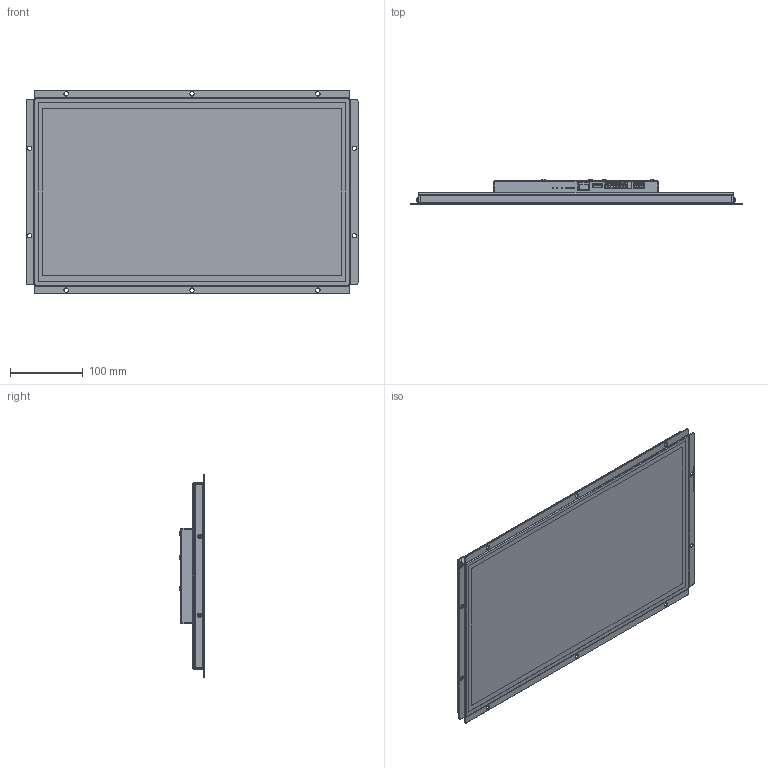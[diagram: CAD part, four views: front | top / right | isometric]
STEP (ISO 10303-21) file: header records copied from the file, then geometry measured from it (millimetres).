
FILE_DESCRIPTION(/* description */ ('fel4B-02A-18,5 Zoll LT-Line'),/* implementation_level */ '2;1');
FILE_NAME(/* name */ 'Z:\Teildatei Inventor\Inventor-Bibliothek\0000 0000 Bauteile\Bildschirme\TFT 18_5 Zoll\00004946 fel4B-02A-18,5 Zoll LT-Line.stp',/* time_stamp */ '2019-11-04T11:02:13+01:00',/* author */ ('Markus Lahey'),/* organization */ (''),/* preprocessor_version */ 'ST-DEVELOPER v17.2',/* originating_system */ 'Autodesk Inventor 2019',/* authorisation */ '');
FILE_SCHEMA (('AUTOMOTIVE_DESIGN { 1 0 10303 214 3 1 1 }'));
Length unit declared in the file: millimetre
Products named in the file (1): 00004946
Bounding box: 455 x 35.15 x 279 mm (x, y, z)
Volume: 1536062 mm3; surface area: 638373.8 mm2
Topology: 28 solids, 28 shells, 1232 faces, 3161 edges, 2055 vertices
Faces by surface type: plane 778, cylinder 213, bspline 139, cone 84, torus 14, sphere 4
Full cylindrical faces by diameter (mm): 0.4 x11, 1.5 x3, 2.459 x10, 3 x18, 3.1 x6, 3.45 x4, 4.4 x4, 5.42 x4, 5.7 x14, 6 x10
Entity records: 39983 total; most frequent: CARTESIAN_POINT 9404, ORIENTED_EDGE 6278, DIRECTION 5545, EDGE_CURVE 3139, VERTEX_POINT 2055, LINE 2033, VECTOR 2033, AXIS2_PLACEMENT_3D 1756
